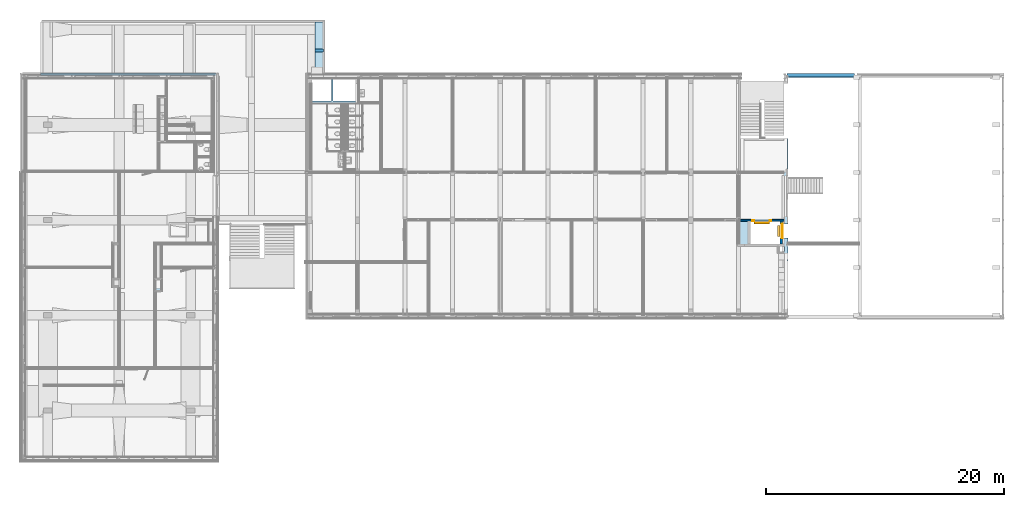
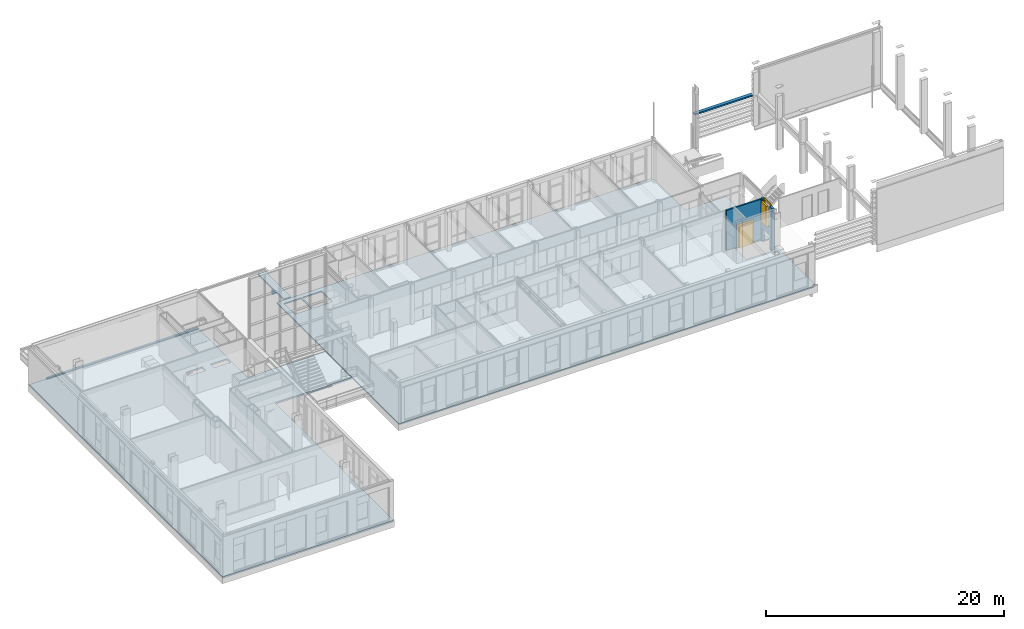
# One storey, part 1 of 94: 4 doors, 4 slabs, 2 beams, 2 walls, 12 openings.
"""IFC2X3 building model written with IfcOpenShell, lengths in millimetres."""

from ifc_helpers import new_model, entity, si_unit, converted_unit, derived_unit, money_unit, direction, frame, origin_with_axes, place, context, subcontext, project, spatial, faceted_brep, source, transform, mapped, material, type_object, type_shapes, element, fill, save


model = new_model("IFC2X3")

# Units and contexts
model_context = context("Model", 3, precision=0.01, world=origin_with_axes(), true_north=direction((0.0, 1.0)))
body_context = subcontext(model_context, "Body", "Model", "MODEL_VIEW")
ifc_project = project(units=[si_unit("LENGTHUNIT", "METRE", prefix="MILLI"), si_unit("AREAUNIT", "SQUARE_METRE"), si_unit("VOLUMEUNIT", "CUBIC_METRE"), converted_unit("PLANEANGLEUNIT", "DEGREE", entity("IfcPlaneAngleMeasure", 0.0174532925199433), si_unit("PLANEANGLEUNIT", "RADIAN"), dimensions=[0, 0, 0, 0, 0, 0, 0]), money_unit("EUR"), converted_unit("TIMEUNIT", "Year", entity("IfcTimeMeasure", 31557600.0), si_unit("TIMEUNIT", "SECOND"), dimensions=[0, 0, 1, 0, 0, 0, 0]), si_unit("MASSUNIT", "GRAM", prefix="KILO"), si_unit("THERMODYNAMICTEMPERATUREUNIT", "DEGREE_CELSIUS"), si_unit("LUMINOUSINTENSITYUNIT", "LUMEN"), si_unit("ENERGYUNIT", "JOULE", prefix="MEGA"), derived_unit("THERMALCONDUCTANCEUNIT", [(si_unit("POWERUNIT", "WATT"), 1), (si_unit("LENGTHUNIT", "METRE"), -1), (si_unit("THERMODYNAMICTEMPERATUREUNIT", "KELVIN"), -1)]), derived_unit("SPECIFICHEATCAPACITYUNIT", [(si_unit("ENERGYUNIT", "JOULE"), 1), (si_unit("MASSUNIT", "GRAM", prefix="KILO"), -1), (si_unit("THERMODYNAMICTEMPERATUREUNIT", "KELVIN"), -1)]), derived_unit("MASSDENSITYUNIT", [(si_unit("MASSUNIT", "GRAM", prefix="KILO"), 1), (si_unit("VOLUMEUNIT", "CUBIC_METRE"), -1)])], contexts=[model_context])

# Site, building, storey
site_placement = place(None, origin_with_axes())
site = spatial("IfcSite", under=ifc_project, at=site_placement, Name="<site naam>", CompositionType="ELEMENT")
building_placement = place(site_placement, origin_with_axes())
building = spatial("IfcBuilding", under=site, at=building_placement, Name="<Naam gebouw>", CompositionType="ELEMENT")
storey_placement = place(building_placement, frame((0.0, 0.0, 4250.0), z_axis=(0.0, 0.0, 1.0), x_axis=(1.0, 0.0, 0.0)))
storey = spatial("IfcBuildingStorey", under=building, at=storey_placement, Name="01 1e verdieping", CompositionType="ELEMENT", Elevation=4250.0)

# Beams
ifc_material_1 = material(Name="beton")
beam_type_1 = type_object("IfcBeamType", Name="beton 335 x 150", PredefinedType="BEAM")
beam_1_placement = place(storey_placement, frame((52105.00000000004, 20324.9999975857, 5125.0), z_axis=(0.0, 0.0, 1.0), x_axis=(0.0, -1.0, 0.0)))
element("IfcBeam", 1, at=beam_1_placement, inside=storey, type_object=beam_type_1, material=ifc_material_1, Name="41_Balk_beton", ObjectType="BEAM", context=body_context, shape_type="Brep", body=[
    faceted_brep([(217.3253485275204, 0.0, 150.0000000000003), (217.3253485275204, 70.00000000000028, 150.0000000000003), (325.0000821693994, 70.00000000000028, 150.0000000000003), (324.9999975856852, 5640.499069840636, 150.0000000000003), (0.0, 5640.499069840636, 150.0000000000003), (0.0, 0.0, 150.0000000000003), (217.3253485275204, 70.00000000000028, 0.0), (217.3253485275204, 0.0, 0.0), (325.0000821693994, 70.00000000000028, 8.000000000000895), (325.0000821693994, 70.00000000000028, 0.0), (324.9999975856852, 5640.499069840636, 8.000000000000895), (335.0000000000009, 5640.499069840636, 8.000000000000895), (335.0000000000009, 5640.499069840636, 0.0), (0.0, 5640.499069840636, 0.0), (0.0, 0.0, 0.0), (335.0000000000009, 0.0, 0.0), (325.0000821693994, 0.0, 0.0), (325.0000821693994, 0.0, 8.000000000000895), (335.0000000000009, 0.0, 8.000000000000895)], [[[0, 1, 2, 3, 4, 5]], [[6, 1, 0, 7]], [[8, 2, 1, 6, 9]], [[3, 2, 8, 10]], [[4, 3, 10, 11, 12, 13]], [[13, 14, 5, 4]], [[14, 7, 0, 5]], [[9, 6, 7, 14, 13, 12, 15, 16]], [[16, 17, 8, 9]], [[10, 8, 17, 18, 11]], [[15, 12, 11, 18]], [[18, 17, 16, 15]]]),
])
ifc_material_2 = material(Name="beton_gewapend C")
beam_type_2 = type_object("IfcBeamType", Name="beton_gewapend C 230 x 480", PredefinedType="BEAM")
beam_2_placement = place(storey_placement, frame((11845.92462859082, 22350.00000000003, -150.0000000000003), z_axis=(0.0, 0.0, 1.0), x_axis=(0.0, -1.0, 0.0)))
element("IfcBeam", 2, at=beam_2_placement, inside=storey, type_object=beam_type_2, material=ifc_material_2, Name="28_Balk_beton_gewapend", ObjectType="BEAM", context=body_context, shape_type="Brep", body=[
    faceted_brep([(0.0, 1329.075371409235, 0.0), (0.0, 1329.075371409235, -480.0), (0.0, 579.0753843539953, -480.0000000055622), (0.0, 579.0753843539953, 0.0002752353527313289), (230.0000000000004, 1329.075371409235, 0.0), (230.0000000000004, 1329.075371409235, -480.0), (230.0000000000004, 579.0753843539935, -480.0000000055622), (230.0000000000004, 579.0753843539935, 0.0002752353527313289)], [[[0, 1, 2, 3]], [[0, 4, 5, 1]], [[1, 5, 6, 2]], [[2, 6, 7, 3]], [[4, 0, 3, 7]], [[5, 4, 7, 6]]]),
])

# Slab, openings
ifc_material_3 = material(Name="beton_gewapend_vloer C")
slab_type_1 = type_object("IfcSlabType", Name="beton_gewapend_vloer C  120", PredefinedType="NOTDEFINED")
slab_1_placement = place(storey_placement, frame((11735.50000000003, 20264.99999999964, -30.00000000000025), z_axis=(0.0, 0.0, 1.0), x_axis=(1.0, 0.0, 0.0)))
slab_1 = element("IfcSlab", 3, at=slab_1_placement, inside=storey, type_object=slab_type_1, material=ifc_material_3, Name="23_Vloer_beton_gewapend_vloer", PredefinedType="NOTDEFINED", context=body_context, shape_type="Brep", body=[
    faceted_brep([(0.0, 0.0, 0.0), (0.0, 0.0, -120.0000000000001), (0.0, -20530.01689395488, -120.0000000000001), (0.0, -20530.01689395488, 0.0), (36264.49999999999, 0.0, 0.0), (36264.49999999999, 0.0, -120.0000000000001), (36264.49999999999, -199.9999999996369, -120.0000000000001), (36439.07785426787, -199.9999999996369, -120.0000000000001), (36439.07785426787, -5415.499999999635, -120.0000000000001), (40438.89999999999, -5415.499999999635, -120.0000000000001), (40438.89999999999, -20264.49999999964, -120.0000000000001), (40168.99999999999, -20264.49999999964, -120.0000000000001), (40168.99999999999, -20530.01689395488, -120.0000000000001), (40168.99999999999, -20530.01689395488, 0.0), (40168.99999999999, -20264.49999999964, 0.0), (40438.89999999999, -20264.49999999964, 0.0), (40438.89999999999, -5415.499999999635, 0.0), (36439.07785426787, -5415.499999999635, 0.0), (36439.07785426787, -199.9999999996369, 0.0), (36264.49999999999, -199.9999999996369, 0.0)], [[[0, 1, 2, 3]], [[4, 5, 1, 0]], [[2, 1, 5, 6, 7, 8, 9, 10, 11, 12]], [[3, 2, 12, 13]], [[4, 0, 3, 13, 14, 15, 16, 17, 18, 19]], [[19, 6, 5, 4]], [[18, 7, 6, 19]], [[17, 8, 7, 18]], [[16, 9, 8, 17]], [[15, 10, 9, 16]], [[14, 11, 10, 15]], [[13, 12, 11, 14]]]),
])
opening_1_placement = place(slab_1_placement, frame((-11735.50000000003, -20264.99999999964, -4220.0), z_axis=(0.0, 0.0, 1.0), x_axis=(1.0, 0.0, 0.0)))
element("IfcOpeningElement", 4, at=opening_1_placement, cuts=slab_1, Name="23_Opening_", context=body_context, shape_type="Brep", body=[
    faceted_brep([(12175.00000000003, 18009.99999999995, 4340.0), (12175.00000000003, 19810.0000059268, 4340.0), (12175.00000000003, 19810.0000059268, 3980.0), (12175.00000000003, 18009.99999999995, 3980.0), (13824.9999999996, 18009.99999999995, 4340.0), (13824.9999999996, 19810.0000059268, 4340.0), (13824.9999999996, 19810.0000059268, 3980.0), (13824.9999999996, 18009.99999999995, 3980.0)], [[[0, 1, 2, 3]], [[0, 4, 5, 1]], [[1, 5, 6, 2]], [[3, 2, 6, 7]], [[4, 0, 3, 7]], [[5, 4, 7, 6]]]),
])
opening_2_placement = place(slab_1_placement, frame((-11735.50000000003, -20264.99999999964, -4220.0), z_axis=(0.0, 0.0, 1.0), x_axis=(1.0, 0.0, 0.0)))
element("IfcOpeningElement", 5, at=opening_2_placement, cuts=slab_1, Name="23_Opening_", context=body_context, shape_type="Brep", body=[
    faceted_brep([(13965.00000000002, 18009.99999999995, 4340.0), (13965.00000000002, 19809.99999999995, 4340.0), (13965.00000000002, 19809.99999999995, 3980.0), (13965.00000000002, 18009.99999999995, 3980.0), (15825.00000000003, 18009.99999999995, 4340.0), (15825.00000000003, 19809.99999999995, 4340.0), (15825.00000000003, 19809.99999999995, 3980.0), (15825.00000000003, 18009.99999999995, 3980.0)], [[[0, 1, 2, 3]], [[0, 4, 5, 1]], [[1, 5, 6, 2]], [[3, 2, 6, 7]], [[4, 0, 3, 7]], [[5, 4, 7, 6]]]),
])
opening_3_placement = place(slab_1_placement, frame((-11735.50000000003, -20264.99999999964, -4220.0), z_axis=(0.0, 0.0, 1.0), x_axis=(1.0, 0.0, 0.0)))
element("IfcOpeningElement", 6, at=opening_3_placement, cuts=slab_1, Name="23_Opening_", context=body_context, shape_type="Brep", body=[
    faceted_brep([(49000.00000000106, 6004.999998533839, 4340.0), (49000.00000000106, 7904.99999853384, 4340.0), (49000.00000000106, 7904.99999853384, 3980.0), (49000.00000000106, 6004.999998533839, 3980.0), (51500.00000000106, 6004.999998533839, 4340.0), (51500.00000000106, 6475.000000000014, 4340.0), (51500.00000000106, 7675.000000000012, 4340.0), (51500.00000000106, 7904.99999853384, 4340.0), (51500.00000000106, 7904.99999853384, 3980.0), (51500.00000000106, 7675.000000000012, 3980.0), (51500.00000000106, 6475.000000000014, 3980.0), (51500.00000000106, 6004.999998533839, 3980.0)], [[[0, 1, 2, 3]], [[0, 4, 5, 6, 7, 1]], [[1, 7, 8, 2]], [[3, 2, 8, 9, 10, 11]], [[4, 0, 3, 11]], [[5, 4, 11, 10]], [[6, 5, 10, 9]], [[7, 6, 9, 8]]]),
])
opening_4_placement = place(slab_1_placement, frame((-11735.50000000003, -20264.99999999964, -4220.0), z_axis=(0.0, 0.0, 1.0), x_axis=(1.0, 0.0, 0.0)))
element("IfcOpeningElement", 7, at=opening_4_placement, cuts=slab_1, Name="23__", context=body_context, shape_type="Brep", body=[
    faceted_brep([(51500.00000000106, 6475.000000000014, 4340.0), (51500.00000000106, 7675.000000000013, 4340.0), (51500.00000000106, 7675.000000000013, 3980.0), (51500.00000000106, 6475.000000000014, 3980.0), (51501.00000380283, 6475.000000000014, 4340.0), (52175.00000380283, 6475.000000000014, 4340.0), (52175.00000380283, 7675.000000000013, 4340.0), (51865.00000380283, 7675.000000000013, 4340.0), (51865.00000380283, 7675.000000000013, 3980.0), (52175.00000380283, 7675.000000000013, 3980.0), (52175.00000380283, 6475.000000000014, 3980.0), (51501.00000380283, 6475.000000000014, 3980.0)], [[[0, 1, 2, 3]], [[0, 4, 5, 6, 7, 1]], [[1, 7, 8, 2]], [[3, 2, 8, 9, 10, 11]], [[4, 0, 3, 11]], [[5, 4, 11, 10]], [[6, 5, 10, 9]], [[7, 6, 9, 8]]]),
])
opening_5_placement = place(slab_1_placement, frame((-11735.50000000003, -20264.99999999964, -4220.0), z_axis=(0.0, 0.0, 1.0), x_axis=(1.0, 0.0, 0.0)))
element("IfcOpeningElement", 8, at=opening_5_placement, cuts=slab_1, Name="23_Opening_", context=body_context, shape_type="Brep", body=[
    faceted_brep([(51395.00000000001, 5340.999998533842, 4340.0), (51395.00000000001, 5790.999998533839, 4340.0), (51395.00000000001, 5790.999998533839, 3980.0), (51395.00000000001, 5340.999998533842, 3980.0), (51865.00000000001, 5340.999998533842, 4340.0), (51865.00000000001, 5790.999998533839, 4340.0), (51865.00000000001, 5790.999998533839, 3980.0), (51865.00000000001, 5340.999998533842, 3980.0)], [[[0, 1, 2, 3]], [[0, 4, 5, 1]], [[1, 5, 6, 2]], [[3, 2, 6, 7]], [[4, 0, 3, 7]], [[5, 4, 7, 6]]]),
])

slab_type_2 = type_object("IfcSlabType", Name="beton_gewapend_vloer C  150", PredefinedType="NOTDEFINED")
slab_2_placement = place(storey_placement, frame((-12274.99999999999, -12274.99008809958, -29.99999999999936), z_axis=(0.0, 0.0, 1.0), x_axis=(1.0, 0.0, 0.0)))
slab_2 = element("IfcSlab", 9, at=slab_2_placement, inside=storey, type_object=slab_type_2, material=ifc_material_3, Name="23_Vloer_beton_gewapend_vloer", PredefinedType="NOTDEFINED", context=body_context, shape_type="Brep", body=[
    faceted_brep([(0.0, 0.0, 0.0), (0.0, 0.0, -150.0000000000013), (16550.04446573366, 0.0, -150.0000000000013), (16550.04446573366, 0.0, 0.0), (0.0, 32519.9900880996, 0.0), (0.0, 32519.9900880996, -150.0000000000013), (16405.92462859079, 32519.9900880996, -150.0000000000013), (16405.92462859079, 24274.9900880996, -150.0000000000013), (23940.00000000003, 24274.9900880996, -150.0000000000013), (23940.00000000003, 19846.5249782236, -150.0000000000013), (16550.04446573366, 19846.5249782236, -150.0000000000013), (16550.04446573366, 19846.5249782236, 0.0), (23940.00000000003, 19846.5249782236, 0.0), (23940.00000000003, 24274.9900880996, 0.0), (16405.92462859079, 24274.9900880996, 0.0), (16405.92462859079, 32519.9900880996, 0.0)], [[[0, 1, 2, 3]], [[4, 5, 1, 0]], [[2, 1, 5, 6, 7, 8, 9, 10]], [[3, 2, 10, 11]], [[0, 3, 11, 12, 13, 14, 15, 4]], [[15, 6, 5, 4]], [[14, 7, 6, 15]], [[13, 8, 7, 14]], [[12, 9, 8, 13]], [[11, 10, 9, 12]]]),
])
opening_6_placement = place(slab_2_placement, frame((12274.99999999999, 12274.99008809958, -4220.000000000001), z_axis=(0.0, 0.0, 1.0), x_axis=(1.0, 0.0, 0.0)))
element("IfcOpeningElement", 10, at=opening_6_placement, cuts=slab_2, Name="23_Opening_", context=body_context, shape_type="Brep", body=[
    faceted_brep([(4000.04446815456, 14599.99996013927, 4370.0), (2400.000000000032, 14599.99996013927, 4370.0), (2400.000000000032, 14599.99996013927, 3919.999999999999), (4000.04446815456, 14599.99996013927, 3919.999999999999), (4000.044468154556, 15199.99998776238, 4370.0), (2400.00000000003, 15199.99998569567, 4370.0), (2400.00000000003, 15199.99998569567, 3919.999999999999), (4000.044468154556, 15199.99998776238, 3919.999999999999)], [[[0, 1, 2, 3]], [[0, 4, 5, 1]], [[1, 5, 6, 2]], [[3, 2, 6, 7]], [[4, 0, 3, 7]], [[5, 4, 7, 6]]]),
])
opening_7_placement = place(slab_2_placement, frame((12274.99999999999, 12274.99008809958, -4220.000000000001), z_axis=(0.0, 0.0, 1.0), x_axis=(1.0, 0.0, 0.0)))
element("IfcOpeningElement", 11, at=opening_7_placement, cuts=slab_2, Name="23_Opening_", context=body_context, shape_type="Brep", body=[
    faceted_brep([(1600.000000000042, 14599.99996727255, 4370.0), (0.0, 14599.99996934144, 4370.0), (0.0, 14599.99996934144, 3919.999999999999), (1600.000000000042, 14599.99996727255, 3919.999999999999), (1600.000000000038, 15199.99999483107, 4370.0), (0.0, 15199.99999483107, 4370.0), (0.0, 15199.99999483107, 3919.999999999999), (1600.000000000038, 15199.99999483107, 3919.999999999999)], [[[0, 1, 2, 3]], [[0, 4, 5, 1]], [[1, 5, 6, 2]], [[3, 2, 6, 7]], [[4, 0, 3, 7]], [[5, 4, 7, 6]]]),
])

# Slabs
slab_3_placement = place(storey_placement, frame((12450.00001294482, 20324.99999758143, 0.0), z_axis=(0.0, 0.0, 1.0), x_axis=(1.0, 0.0, 0.0)))
element("IfcSlab", 12, at=slab_3_placement, inside=storey, type_object=slab_type_2, material=ifc_material_3, Name="27_Vloer_beton_gewapend_vloer", PredefinedType="NOTDEFINED", context=body_context, shape_type="Brep", body=[
    faceted_brep([(0.0, 0.0, 0.0), (0.0, 0.0, -150.0000000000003), (725.0087607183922, 0.0, -150.0000000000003), (725.0087607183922, 0.0, 0.0), (0.0, 4325.000002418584, 0.0), (0.0, 4325.000002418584, -150.0000000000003), (725.0087607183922, 4325.000002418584, -150.0000000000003), (725.0087607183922, 4325.000002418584, 0.0)], [[[0, 1, 2, 3]], [[4, 5, 1, 0]], [[2, 1, 5, 6]], [[3, 2, 6, 7]], [[4, 0, 3, 7]], [[7, 6, 5, 4]]]),
])
slab_type_3 = type_object("IfcSlabType", Name="beton_gewapend_vloer C  220", PredefinedType="NOTDEFINED")
slab_4_placement = place(storey_placement, frame((4130.924756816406, 20334.99994367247, 70.00015497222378), z_axis=(0.0, 0.0, 1.0), x_axis=(1.0, 0.0, 0.0)))
element("IfcSlab", 13, at=slab_4_placement, inside=storey, type_object=slab_type_3, material=ifc_material_3, Name="27_Vloer_beton_gewapend_vloer", PredefinedType="NOTDEFINED", context=body_context, shape_type="Brep", body=[
    faceted_brep([(0.0, 0.0, 0.0), (0.0, 0.0, -220.0001549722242), (-14735.00012822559, 0.0, -220.0001549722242), (-14735.00012822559, 0.0, 0.0), (0.0, -199.9999436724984, 0.0), (0.0, -199.9999436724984, -220.0001549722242), (-14735.00012822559, -199.9999436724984, -220.0001549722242), (-14735.00012822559, -199.9999436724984, 0.0)], [[[0, 1, 2, 3]], [[4, 5, 1, 0]], [[2, 1, 5, 6]], [[3, 2, 6, 7]], [[4, 0, 3, 7]], [[7, 6, 5, 4]]]),
])

# Wall, openings, doors
ifc_material_4 = material(Name="kalkzandsteen")
wall_type_1 = type_object("IfcWallType", Name="kalkzandsteen 150", PredefinedType="NOTDEFINED")
wall_1_placement = place(storey_placement, frame((51865.00000000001, 7904.999998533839, 0.0), z_axis=(0.0, 0.0, 1.0), x_axis=(-1.0, 0.0, 0.0)))
wall_1 = element("IfcWall", 14, at=wall_1_placement, inside=storey, type_object=wall_type_1, material=ifc_material_4, Name="22_Binnenwand_kalkzandsteen", context=body_context, shape_type="Brep", body=[
    faceted_brep([(3689.999999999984, -150.0000000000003, 4100.0), (0.0, -150.0000000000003, 4100.0), (0.0, -150.0000000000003, 0.0), (3689.999999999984, -150.0000000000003, 0.0), (0.0, 0.0, 4100.0), (3689.999999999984, 0.0, 4100.0), (0.0, 0.0, 0.0), (3689.999999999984, 0.0, 0.0)], [[[0, 1, 2, 3]], [[4, 1, 0, 5]], [[1, 4, 6, 2]], [[2, 6, 7, 3]], [[5, 0, 3, 7]], [[4, 5, 7, 6]]]),
])
opening_8_placement = place(wall_1_placement, frame((1884.999999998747, 0.0, 0.0), z_axis=(0.0, 0.0, 1.0), x_axis=(1.0, 0.0, 0.0)))
opening_8 = element("IfcOpeningElement", 15, at=opening_8_placement, cuts=wall_1, Name="22_liftdeur_305", context=body_context, shape_type="Brep", body=[
    faceted_brep([(649.9999999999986, 1.000000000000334, 2100.0), (649.9999999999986, 1.000000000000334, 0.0), (-649.9999999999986, 1.000000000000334, 0.0), (-649.9999999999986, 1.000000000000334, 2100.0), (649.9999999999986, -150.9999999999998, 2100.0), (649.9999999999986, -150.9999999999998, 0.0), (-649.9999999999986, -150.9999999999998, 0.0), (-649.9999999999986, -150.9999999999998, 2100.0)], [[[0, 1, 2, 3]], [[4, 5, 1, 0]], [[5, 6, 2, 1]], [[6, 7, 3, 2]], [[7, 4, 0, 3]], [[6, 5, 4, 7]]]),
])
opening_9_placement = place(wall_1_placement, frame((1884.999999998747, 0.0, 0.0), z_axis=(0.0, 0.0, 1.0), x_axis=(1.0, 0.0, 0.0)))
opening_9 = element("IfcOpeningElement", 16, at=opening_9_placement, cuts=wall_1, Name="22__305", context=body_context, shape_type="Brep", body=[
    faceted_brep([(-799.9999999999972, -150.9999999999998, 2300.000000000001), (-799.9999999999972, -150.9999999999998, 0.0), (799.9999999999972, -150.9999999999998, 0.0), (799.9999999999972, -150.9999999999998, 2300.000000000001), (-799.9999999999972, 1.000000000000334, 2300.000000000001), (-799.9999999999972, 1.000000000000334, 0.0), (799.9999999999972, 1.000000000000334, 0.0), (799.9999999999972, 1.000000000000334, 2300.000000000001)], [[[0, 1, 2, 3]], [[4, 5, 1, 0]], [[5, 6, 2, 1]], [[6, 7, 3, 2]], [[7, 4, 0, 3]], [[6, 5, 4, 7]]]),
])
door_style_1 = type_object("IfcDoorStyle", Name="DS1 voor wand 27", ConstructionType="NOTDEFINED", OperationType="SLIDING_TO_LEFT", ParameterTakesPrecedence=False, Sizeable=False)
shared_shape_1 = source(origin_with_axes(), body_context, "Body", "Brep", [
    faceted_brep([(-650.0, 365.0, 0.0), (650.0, 365.0, 0.0), (650.0, 155.0, 0.0), (-650.0, 155.0, 0.0), (-650.0, 364.9999999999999, 2100.0), (650.0, 364.9999999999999, 2100.0), (650.0, 154.9999999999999, 2100.0), (-650.0, 154.9999999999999, 2100.0)], [[[0, 1, 2, 3]], [[0, 4, 5, 1]], [[1, 5, 6, 2]], [[3, 2, 6, 7]], [[4, 0, 3, 7]], [[5, 4, 7, 6]]]),
])
door_1_placement = place(opening_8_placement, frame((-649.9999999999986, 0.0, 0.0), z_axis=(0.0, 0.0, 1.0), x_axis=(1.0, 0.0, 0.0)))
door_1 = element("IfcDoor", 17, at=door_1_placement, inside=storey, type_object=door_style_1, Name="22_liftdeur_305", ObjectType="DOOR", OverallHeight=2100.0, OverallWidth=1300.0, context=body_context, shape_type="MappedRepresentation", body=[
    mapped(shared_shape_1, transform((649.9999999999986, -150.0000000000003, 0.0))),
])
fill(opening_8, door_1)
door_style_2 = type_object("IfcDoorStyle", Name="D1 27", ConstructionType="NOTDEFINED", OperationType="NOTDEFINED", ParameterTakesPrecedence=False, Sizeable=False)
shared_shape_2 = source(origin_with_axes(), body_context, "Body", "Brep", [
    faceted_brep([(799.9999999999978, 0.0, 0.0), (799.9999999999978, -60.0, 0.0), (649.9999999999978, -60.0, 0.0), (649.9999999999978, 0.0, 0.0), (799.9999999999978, 0.0, 2100.0), (799.9999999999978, -60.0, 2100.0), (649.9999999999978, -60.0, 2100.0), (649.9999999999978, 0.0, 2100.0)], [[[0, 1, 2, 3]], [[4, 5, 1, 0]], [[1, 5, 6, 2]], [[3, 2, 6, 7]], [[0, 3, 7, 4]], [[7, 6, 5, 4]]]),
    faceted_brep([(-799.9999999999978, 0.0, 0.0), (-799.9999999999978, -60.0, 0.0), (-799.9999999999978, -60.0, 2100.0), (-799.9999999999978, 0.0, 2100.0), (-649.9999999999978, 0.0, 0.0), (-649.9999999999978, -60.0, 0.0), (-649.9999999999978, -60.0, 2100.0), (-649.9999999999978, 0.0, 2100.0)], [[[0, 1, 2, 3]], [[4, 5, 1, 0]], [[1, 5, 6, 2]], [[3, 2, 6, 7]], [[0, 3, 7, 4]], [[7, 6, 5, 4]]]),
    faceted_brep([(799.9999999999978, 0.0, 2300.0), (799.9999999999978, -60.0, 2300.0), (799.9999999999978, -60.0, 2100.0), (799.9999999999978, 0.0, 2100.0), (-799.9999999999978, 0.0, 2300.0), (-799.9999999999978, -60.0, 2300.0), (-799.9999999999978, -60.0, 2100.0), (-649.9999999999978, -60.0, 2100.0), (649.9999999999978, -60.0, 2100.0), (649.9999999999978, 0.0, 2100.0), (-649.9999999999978, 0.0, 2100.0), (-799.9999999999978, 0.0, 2100.0)], [[[0, 1, 2, 3]], [[4, 5, 1, 0]], [[1, 5, 6, 7, 8, 2]], [[3, 2, 8, 9]], [[0, 3, 9, 10, 11, 4]], [[11, 6, 5, 4]], [[10, 7, 6, 11]], [[9, 8, 7, 10]]]),
])
door_2_placement = place(opening_9_placement, frame((-649.9999999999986, 0.0, 0.0), z_axis=(0.0, 0.0, 1.0), x_axis=(1.0, 0.0, 0.0)))
door_2 = element("IfcDoor", 18, at=door_2_placement, inside=storey, type_object=door_style_2, Name="22__305", ObjectType="DOOR", OverallHeight=2300.0, OverallWidth=1600.0, context=body_context, shape_type="MappedRepresentation", body=[
    mapped(shared_shape_2, transform((649.9999999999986, 0.0, 0.0))),
])
fill(opening_9, door_2)

wall_type_2 = type_object("IfcWallType", Name="kalkzandsteen 214", PredefinedType="NOTDEFINED")
wall_2_placement = place(storey_placement, frame((51500.00000000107, 6005.000000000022, 0.0), z_axis=(0.0, 0.0, 1.0), x_axis=(0.0, 1.0, 0.0)))
wall_2 = element("IfcWall", 19, at=wall_2_placement, inside=storey, type_object=wall_type_2, material=ifc_material_4, Name="22_Binnenwand_kalkzandsteen", context=body_context, shape_type="Brep", body=[
    faceted_brep([(1670.000003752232, -213.9999999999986, 2098.0), (1670.000011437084, -1.000032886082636, 2098.0), (1669.99999108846, -0.9999999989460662, 1944.999999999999), (1669.99999108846, -213.9999999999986, 1944.999999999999), (470.0000037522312, -213.9999999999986, 2098.0), (470.0000114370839, -0.9999895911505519, 2098.0), (469.9999910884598, -0.9999999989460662, 1944.999999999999), (469.9999910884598, -213.9999999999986, 1944.999999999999), (-1.466182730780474e-06, -213.9999999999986, 0.0), (1899.999998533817, -213.9999999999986, 0.0), (1899.999998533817, -213.9999999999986, 4250.0), (-1.466182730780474e-06, -213.9999999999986, 4250.0), (-1.466182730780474e-06, 0.0, 0.0), (1899.999998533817, 0.0, 0.0), (1899.999998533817, 0.0, 4250.0), (-1.466182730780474e-06, 0.0, 4250.0)], [[[0, 1, 2, 3]], [[1, 0, 4, 5]], [[5, 6, 2, 1]], [[6, 7, 3, 2]], [[8, 9, 10, 11], [3, 7, 4, 0]], [[4, 7, 6, 5]], [[12, 13, 9, 8]], [[10, 9, 13, 14]], [[11, 10, 14, 15]], [[11, 15, 12, 8]], [[15, 14, 13, 12]]]),
])
opening_10_placement = place(wall_2_placement, frame((1070.00000146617, 0.0, -1062.0), z_axis=(0.0, 0.0, 1.0), x_axis=(1.0, 0.0, 0.0)))
element("IfcOpeningElement", 20, at=opening_10_placement, cuts=wall_2, Name="22__305", context=body_context, shape_type="Brep", body=[
    faceted_brep([(599.9999999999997, 0.9999999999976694, 2300.0), (599.9999999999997, 0.9999999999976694, 0.0), (-599.9999999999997, 0.9999999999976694, 0.0), (-599.9999999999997, 0.9999999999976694, 2300.0), (599.9999999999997, -214.9999999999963, 2300.0), (599.9999999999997, -214.9999999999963, 0.0), (-599.9999999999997, -214.9999999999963, 0.0), (-599.9999999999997, -214.9999999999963, 2300.0)], [[[0, 1, 2, 3]], [[4, 5, 1, 0]], [[5, 6, 2, 1]], [[6, 7, 3, 2]], [[7, 4, 0, 3]], [[6, 5, 4, 7]]]),
])
opening_11_placement = place(wall_2_placement, frame((1070.000001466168, 0.0, 2095.0), z_axis=(0.0, 0.0, 1.0), x_axis=(1.0, 0.0, 0.0)))
opening_11 = element("IfcOpeningElement", 21, at=opening_11_placement, cuts=wall_2, Name="22__305", context=body_context, shape_type="Brep", body=[
    faceted_brep([(599.9999999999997, 0.9999999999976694, 2300.0), (599.9999999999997, 0.9999999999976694, 0.0), (-599.9999999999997, 0.9999999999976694, 0.0), (-599.9999999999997, 0.9999999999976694, 2300.0), (599.9999999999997, -214.9999999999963, 2300.0), (599.9999999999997, -214.9999999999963, 0.0), (-599.9999999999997, -214.9999999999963, 0.0), (-599.9999999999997, -214.9999999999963, 2300.0)], [[[0, 1, 2, 3]], [[4, 5, 1, 0]], [[5, 6, 2, 1]], [[6, 7, 3, 2]], [[7, 4, 0, 3]], [[6, 5, 4, 7]]]),
])
opening_12_placement = place(wall_2_placement, frame((1070.000001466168, 0.0, 2095.0), z_axis=(0.0, 0.0, 1.0), x_axis=(1.0, 0.0, 0.0)))
opening_12 = element("IfcOpeningElement", 22, at=opening_12_placement, cuts=wall_2, Name="22_liftdeur_305", context=body_context, shape_type="Brep", body=[
    faceted_brep([(450.0000000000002, 0.9999999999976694, 2100.0), (450.0000000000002, 0.9999999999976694, 0.0), (-450.0000000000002, 0.9999999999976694, 0.0), (-450.0000000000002, 0.9999999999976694, 2100.0), (450.0000000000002, -214.9999999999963, 2100.0), (450.0000000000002, -214.9999999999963, 0.0), (-450.0000000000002, -214.9999999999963, 0.0), (-450.0000000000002, -214.9999999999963, 2100.0)], [[[0, 1, 2, 3]], [[4, 5, 1, 0]], [[5, 6, 2, 1]], [[6, 7, 3, 2]], [[7, 4, 0, 3]], [[6, 5, 4, 7]]]),
])
shared_shape_3 = source(origin_with_axes(), body_context, "Body", "Brep", [
    faceted_brep([(-449.9999999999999, 429.0, 0.0), (450.0000000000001, 429.0, 0.0), (450.0000000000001, 219.0, 0.0), (-449.9999999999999, 219.0, 0.0), (-449.9999999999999, 428.9999999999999, 2100.0), (450.0000000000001, 428.9999999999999, 2100.0), (450.0000000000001, 218.9999999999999, 2100.0), (-449.9999999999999, 218.9999999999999, 2100.0)], [[[0, 1, 2, 3]], [[0, 4, 5, 1]], [[1, 5, 6, 2]], [[3, 2, 6, 7]], [[4, 0, 3, 7]], [[5, 4, 7, 6]]]),
])
type_shapes(door_style_1, [shared_shape_1, shared_shape_3])
door_3_placement = place(opening_12_placement, frame((-450.0000000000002, 0.0, 0.0), z_axis=(0.0, 0.0, 1.0), x_axis=(1.0, 0.0, 0.0)))
door_3 = element("IfcDoor", 23, at=door_3_placement, inside=storey, type_object=door_style_1, Name="22_liftdeur_305", ObjectType="DOOR", OverallHeight=2100.0, OverallWidth=900.0, context=body_context, shape_type="MappedRepresentation", body=[
    mapped(shared_shape_3, transform((450.0000000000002, -213.9999999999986, 0.0))),
])
fill(opening_12, door_3)
shared_shape_4 = source(origin_with_axes(), body_context, "Body", "Brep", [
    faceted_brep([(600.0, 0.0, 0.0), (600.0, -60.0, 0.0), (449.9999999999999, -60.0, 0.0), (449.9999999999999, 0.0, 0.0), (600.0, 0.0, 2100.0), (600.0, -60.0, 2100.0), (449.9999999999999, -60.0, 2100.0), (449.9999999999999, 0.0, 2100.0)], [[[0, 1, 2, 3]], [[4, 5, 1, 0]], [[1, 5, 6, 2]], [[3, 2, 6, 7]], [[0, 3, 7, 4]], [[7, 6, 5, 4]]]),
    faceted_brep([(-600.0, 0.0, 0.0), (-600.0, -60.0, 0.0), (-600.0, -60.0, 2100.0), (-600.0, 0.0, 2100.0), (-449.9999999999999, 0.0, 0.0), (-449.9999999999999, -60.0, 0.0), (-449.9999999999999, -60.0, 2100.0), (-449.9999999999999, 0.0, 2100.0)], [[[0, 1, 2, 3]], [[4, 5, 1, 0]], [[1, 5, 6, 2]], [[3, 2, 6, 7]], [[0, 3, 7, 4]], [[7, 6, 5, 4]]]),
    faceted_brep([(600.0, 0.0, 2300.0), (600.0, -60.0, 2300.0), (600.0, -60.0, 2100.0), (600.0, 0.0, 2100.0), (-600.0, 0.0, 2300.0), (-600.0, -60.0, 2300.0), (-600.0, -60.0, 2100.0), (-449.9999999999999, -60.0, 2100.0), (449.9999999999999, -60.0, 2100.0), (449.9999999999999, 0.0, 2100.0), (-449.9999999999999, 0.0, 2100.0), (-600.0, 0.0, 2100.0)], [[[0, 1, 2, 3]], [[4, 5, 1, 0]], [[1, 5, 6, 7, 8, 2]], [[3, 2, 8, 9]], [[0, 3, 9, 10, 11, 4]], [[11, 6, 5, 4]], [[10, 7, 6, 11]], [[9, 8, 7, 10]]]),
])
type_shapes(door_style_2, [shared_shape_2, shared_shape_4])
door_4_placement = place(opening_11_placement, frame((-450.0000000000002, 0.0, 0.0), z_axis=(0.0, 0.0, 1.0), x_axis=(1.0, 0.0, 0.0)))
door_4 = element("IfcDoor", 24, at=door_4_placement, inside=storey, type_object=door_style_2, Name="22__305", ObjectType="DOOR", OverallHeight=2300.0, OverallWidth=1200.0, context=body_context, shape_type="MappedRepresentation", body=[
    mapped(shared_shape_4, transform((450.0000000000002, -153.9999999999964, 0.0))),
])
fill(opening_11, door_4)

save(model, "model.ifc")
